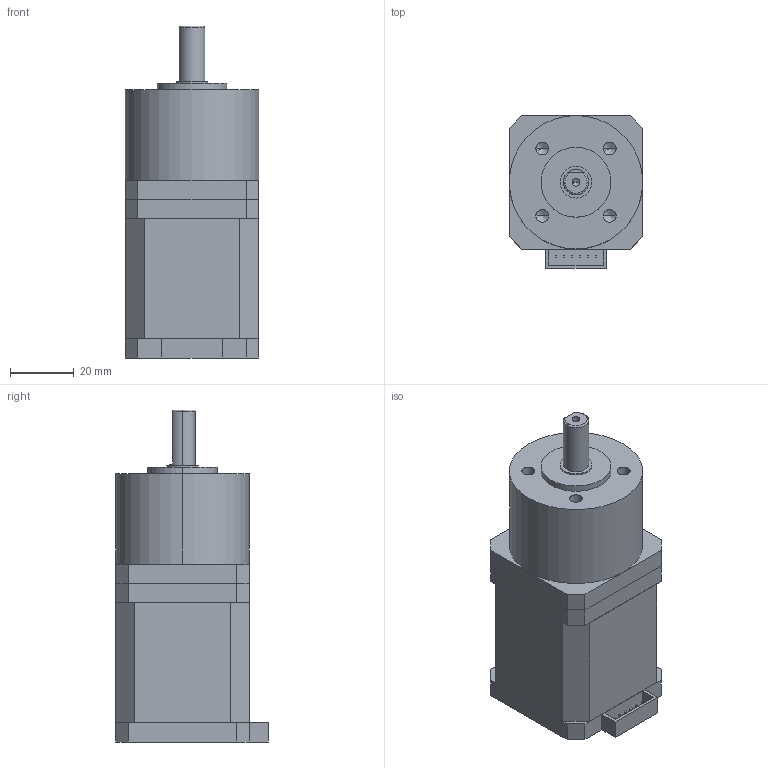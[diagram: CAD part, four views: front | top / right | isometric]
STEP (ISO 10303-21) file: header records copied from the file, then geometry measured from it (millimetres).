
FILE_DESCRIPTION (( 'STEP AP203' ), '1' );
FILE_NAME ('T42PG005-D20-0450.STEP', '2019-10-25T07:50:29', ( 'China' ), ( 'Home' ), 'SwSTEP 2.0', 'SolidWorks 2016', '' );
FILE_SCHEMA (( 'CONFIG_CONTROL_DESIGN' ));
Length unit declared in the file: millimetre
Products named in the file (1): T42PG005-D20-0450
Bounding box: 42 x 48 x 104.5 mm (x, y, z)
Volume: 136379.1 mm3; surface area: 27841.3 mm2
Topology: 4 solids, 4 shells, 127 faces, 301 edges, 187 vertices
Faces by surface type: plane 88, cone 18, cylinder 18, bspline 3
Entity records: 3676 total; most frequent: CARTESIAN_POINT 706, DIRECTION 586, ORIENTED_EDGE 582, EDGE_CURVE 291, VECTOR 236, LINE 236, VERTEX_POINT 187, AXIS2_PLACEMENT_3D 175
